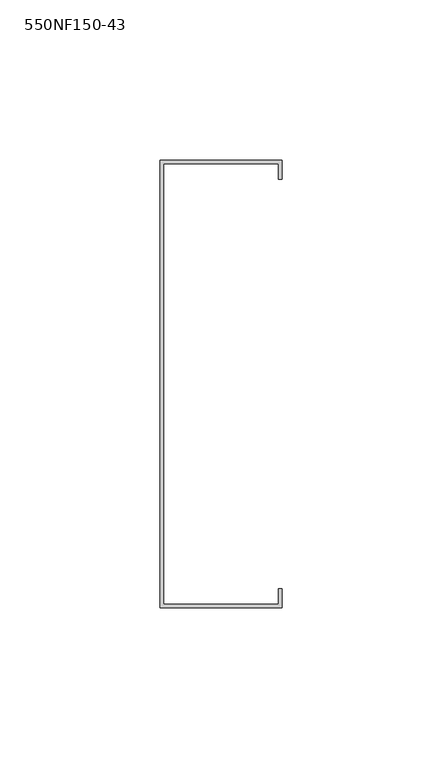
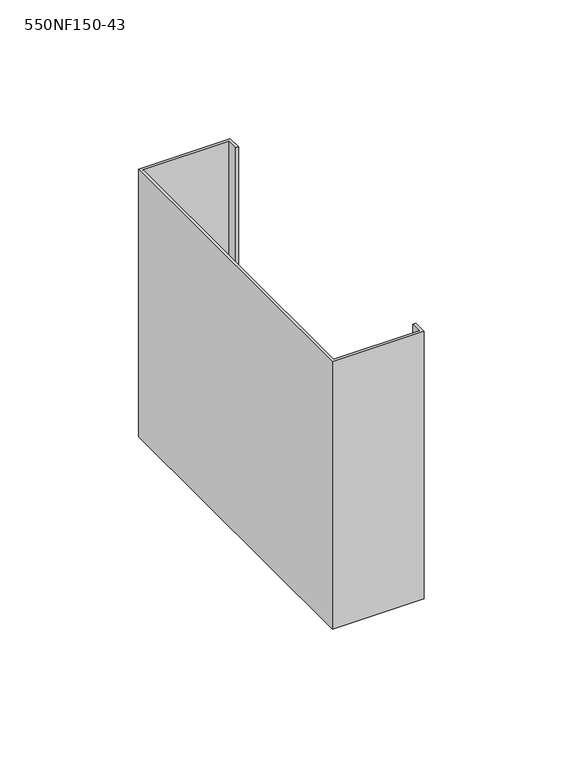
"""IFC4 building model written with IfcOpenShell, lengths in millimetres: column geometry, BIMSF-SSMA-S-Column : 550NF150-43."""

from ifc_helpers import new_model, si_unit, frame, origin, place, context, project, spatial, polyline, outline, extrude, source, transform, mapped, element, save


def column_550nf150_43_bc900877(model_context):
    return source(origin(), model_context, "Body", "SweptSolid", [
        extrude(outline(polyline([(-11.9977877, -80.5871249), (-11.9977877, 59.1128751), (26.1022123, 59.1128751), (26.1022123, 53.1879908), (24.952528, 53.1879908), (24.952528, 57.9631908), (-10.8481035, 57.9631908), (-10.8481035, -79.4374407), (24.952528, -79.4374407), (24.952528, -74.6622407), (26.1022123, -74.6622407), (26.1022123, -80.5871249), (-11.9977877, -80.5871249)])), frame((0.0, 0.0, 5525.3929688), z_axis=(0.0, 0.0, 1.0), x_axis=(1.0, 0.0, 0.0)), (0.0, 0.0, 1.0), 117.6396659),
    ])


if __name__ == "__main__":
    model = new_model("IFC4")
    model_context = context("Model", 3, world=origin())
    ifc_project = project(units=[si_unit("LENGTHUNIT", "METRE", prefix="MILLI")], contexts=[model_context])
    site = spatial("IfcSite", under=ifc_project)
    building = spatial("IfcBuilding", under=site)
    placement = place(None, origin())
    column_550nf150_43_shape = column_550nf150_43_bc900877(model_context)
    element("IfcColumn", 1, ObjectType="BIMSF-SSMA-S-Column : 550NF150-43", at=placement, inside=building, context=model_context, shape_type="MappedRepresentation", body=[
        mapped(column_550nf150_43_shape, transform((0.0, 0.0, 0.0), x_axis=(1.0, 0.0, 0.0), y_axis=(0.0, 1.0, 0.0), z_axis=(0.0, 0.0, 1.0))),
    ])
    save(model, "model.ifc")
